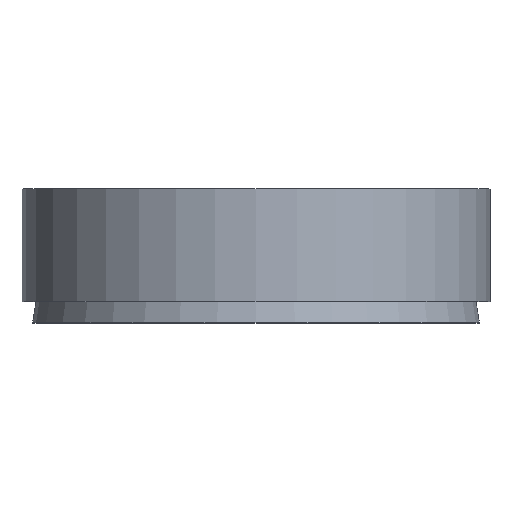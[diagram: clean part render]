
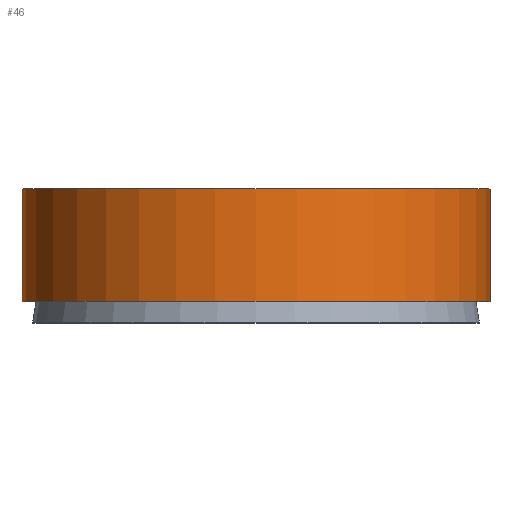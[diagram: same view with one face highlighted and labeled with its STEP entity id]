
A CAD part, top view. The second image highlights one B-rep face of the part: STEP entity #46.
In plain terms, the highlighted cylindrical face has radius 11 mm (diameter 22 mm), a full revolution.
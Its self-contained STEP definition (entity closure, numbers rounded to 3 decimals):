
#46 = ADVANCED_FACE( '', ( #93, #94 ), #95, .T. );
#93 = FACE_OUTER_BOUND( '', #132, .T. );
#94 = FACE_OUTER_BOUND( '', #133, .T. );
#95 = CYLINDRICAL_SURFACE( '', #134, 11. );
#132 = EDGE_LOOP( '', ( #179 ) );
#133 = EDGE_LOOP( '', ( #180 ) );
#134 = AXIS2_PLACEMENT_3D( '', #181, #182, #183 );
#179 = ORIENTED_EDGE( '', *, *, #189, .F. );
#180 = ORIENTED_EDGE( '', *, *, #198, .T. );
#181 = CARTESIAN_POINT( '', ( 0., -60., 0. ) );
#182 = DIRECTION( '', ( 0., 1., 0. ) );
#183 = DIRECTION( '', ( 0., 0., -1. ) );
#189 = EDGE_CURVE( '', #208, #208, #209, .T. );
#198 = EDGE_CURVE( '', #221, #221, #222, .T. );
#208 = VERTEX_POINT( '', #232 );
#209 = CIRCLE( '', #233, 11. );
#221 = VERTEX_POINT( '', #245 );
#222 = CIRCLE( '', #246, 11. );
#232 = CARTESIAN_POINT( '', ( 0., 1., -11. ) );
#233 = AXIS2_PLACEMENT_3D( '', #257, #258, #259 );
#245 = CARTESIAN_POINT( '', ( 0., 6.3, -11. ) );
#246 = AXIS2_PLACEMENT_3D( '', #269, #270, #271 );
#257 = CARTESIAN_POINT( '', ( 0., 1., 0. ) );
#258 = DIRECTION( '', ( 0., -1., 0. ) );
#259 = DIRECTION( '', ( 0., 0., -1. ) );
#269 = CARTESIAN_POINT( '', ( 0., 6.3, 0. ) );
#270 = DIRECTION( '', ( 0., -1., 0. ) );
#271 = DIRECTION( '', ( 0., 0., -1. ) );
